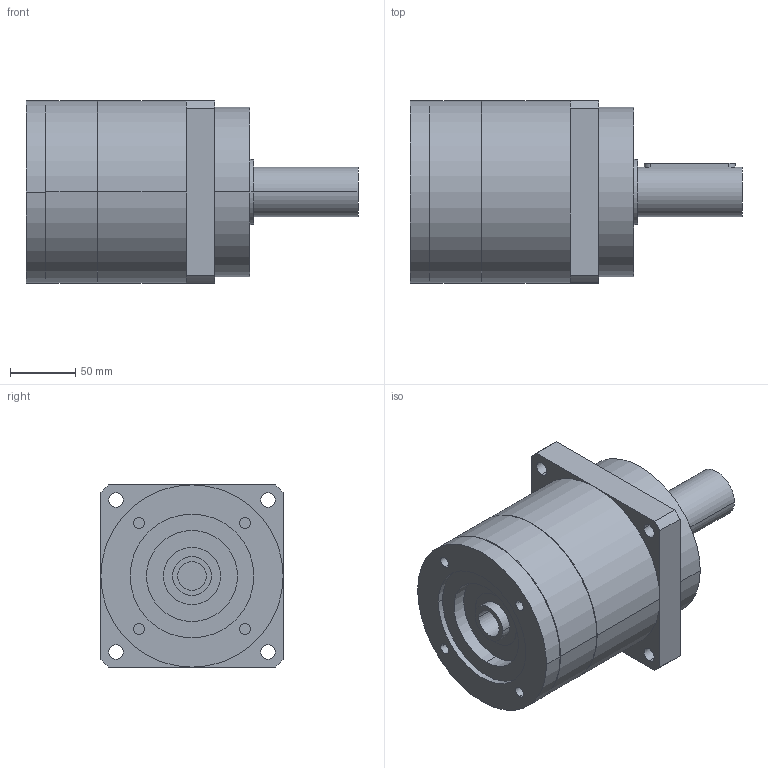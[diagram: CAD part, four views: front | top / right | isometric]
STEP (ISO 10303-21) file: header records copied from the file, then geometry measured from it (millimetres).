
FILE_DESCRIPTION(('CoCreate Modeling STEP Export'),'2;1');
FILE_NAME('GPR150_ig-3-4-5-7_38_B5_22_P03.stp','2014-08-26T15:29:11',(''),(''),'CoCreate Modeling STEP processor for AP214 (Solid Model)','CoCreate Modeling 16.00C 25-Feb-2009 (C) Parametric Technology GmbH','');
FILE_SCHEMA(('AUTOMOTIVE_DESIGN { 1 0 10303 214 1 1 1 1 }'));
Length unit declared in the file: millimetre
Products named in the file (2): GPR150_ig-3-4-5-7_38_B5_22_P03
Assembly tree (1 placements, depth 2):
  GPR150_ig-3-4-5-7_38_B5_22_P03
    GPR150_ig-3-4-5-7_38_B5_22_P03
Bounding box: 255 x 140 x 140 mm (x, y, z)
Volume: 2677037.1 mm3; surface area: 140802.7 mm2
Topology: 1 solids, 1 shells, 91 faces, 228 edges, 156 vertices
Faces by surface type: cylinder 54, plane 31, cone 6
Entity records: 2382 total; most frequent: ORIENTED_EDGE 452, CARTESIAN_POINT 434, DIRECTION 330, EDGE_CURVE 226, VERTEX_POINT 156, AXIS2_PLACEMENT_3D 124, EDGE_LOOP 118, FACE_OUTER_BOUND 91
